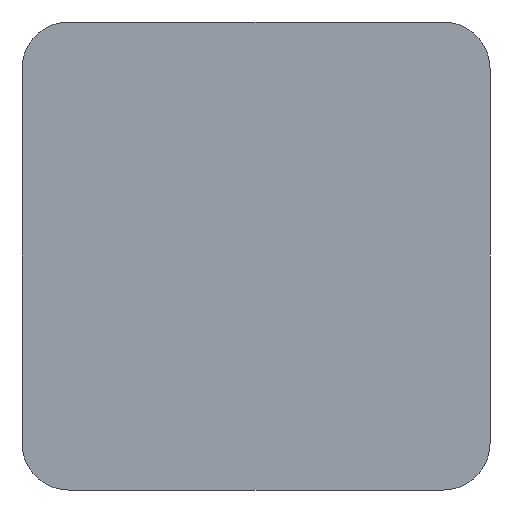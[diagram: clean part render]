
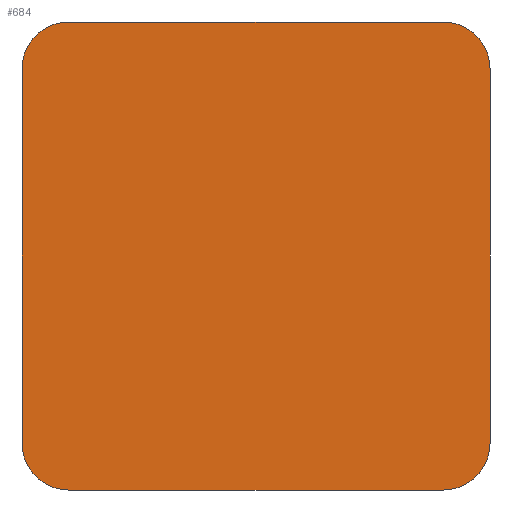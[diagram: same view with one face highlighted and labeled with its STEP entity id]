
A CAD part, front view. The second image highlights one B-rep face of the part: STEP entity #684.
In plain terms, the highlighted planar face has unit normal (0, -1, 0).
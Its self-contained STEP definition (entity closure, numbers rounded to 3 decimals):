
#63 = VERTEX_POINT('',#64);
#64 = CARTESIAN_POINT('',(-25.,13.2,20.));
#73 = PLANE('',#74);
#74 = AXIS2_PLACEMENT_3D('',#75,#76,#77);
#75 = CARTESIAN_POINT('',(-25.,13.2,20.));
#76 = DIRECTION('',(-1.,0.,-0.));
#77 = DIRECTION('',(0.,0.,-1.));
#85 = CYLINDRICAL_SURFACE('',#86,5.);
#86 = AXIS2_PLACEMENT_3D('',#87,#88,#89);
#87 = CARTESIAN_POINT('',(-20.,13.2,20.));
#88 = DIRECTION('',(0.,-1.,-0.));
#89 = DIRECTION('',(1.,0.,0.));
#126 = VERTEX_POINT('',#127);
#127 = CARTESIAN_POINT('',(-25.,13.2,-20.));
#141 = CYLINDRICAL_SURFACE('',#142,5.);
#142 = AXIS2_PLACEMENT_3D('',#143,#144,#145);
#143 = CARTESIAN_POINT('',(-20.,13.2,-20.));
#144 = DIRECTION('',(0.,-1.,-0.));
#145 = DIRECTION('',(1.,0.,0.));
#153 = EDGE_CURVE('',#63,#126,#154,.T.);
#154 = SURFACE_CURVE('',#155,(#159,#166),.PCURVE_S1.);
#155 = LINE('',#156,#157);
#156 = CARTESIAN_POINT('',(-25.,13.2,0.));
#157 = VECTOR('',#158,1.);
#158 = DIRECTION('',(0.,0.,-1.));
#159 = PCURVE('',#73,#160);
#160 = DEFINITIONAL_REPRESENTATION('',(#161),#165);
#161 = LINE('',#162,#163);
#162 = CARTESIAN_POINT('',(20.,0.));
#163 = VECTOR('',#164,1.);
#164 = DIRECTION('',(1.,0.));
#165 = ( GEOMETRIC_REPRESENTATION_CONTEXT(2) 
PARAMETRIC_REPRESENTATION_CONTEXT() REPRESENTATION_CONTEXT('2D SPACE',''
  ) );
#166 = PCURVE('',#167,#172);
#167 = PLANE('',#168);
#168 = AXIS2_PLACEMENT_3D('',#169,#170,#171);
#169 = CARTESIAN_POINT('',(0.,13.2,0.));
#170 = DIRECTION('',(0.,1.,0.));
#171 = DIRECTION('',(1.,0.,0.));
#172 = DEFINITIONAL_REPRESENTATION('',(#173),#177);
#173 = LINE('',#174,#175);
#174 = CARTESIAN_POINT('',(-25.,0.));
#175 = VECTOR('',#176,1.);
#176 = DIRECTION('',(0.,1.));
#177 = ( GEOMETRIC_REPRESENTATION_CONTEXT(2) 
PARAMETRIC_REPRESENTATION_CONTEXT() REPRESENTATION_CONTEXT('2D SPACE',''
  ) );
#182 = EDGE_CURVE('',#183,#126,#185,.T.);
#183 = VERTEX_POINT('',#184);
#184 = CARTESIAN_POINT('',(-20.,13.2,-25.));
#185 = SURFACE_CURVE('',#186,(#191,#198),.PCURVE_S1.);
#186 = CIRCLE('',#187,5.);
#187 = AXIS2_PLACEMENT_3D('',#188,#189,#190);
#188 = CARTESIAN_POINT('',(-20.,13.2,-20.));
#189 = DIRECTION('',(-0.,1.,0.));
#190 = DIRECTION('',(1.,0.,0.));
#191 = PCURVE('',#141,#192);
#192 = DEFINITIONAL_REPRESENTATION('',(#193),#197);
#193 = LINE('',#194,#195);
#194 = CARTESIAN_POINT('',(6.283,0.));
#195 = VECTOR('',#196,1.);
#196 = DIRECTION('',(-1.,0.));
#197 = ( GEOMETRIC_REPRESENTATION_CONTEXT(2) 
PARAMETRIC_REPRESENTATION_CONTEXT() REPRESENTATION_CONTEXT('2D SPACE',''
  ) );
#198 = PCURVE('',#167,#199);
#199 = DEFINITIONAL_REPRESENTATION('',(#200),#204);
#200 = CIRCLE('',#201,5.);
#201 = AXIS2_PLACEMENT_2D('',#202,#203);
#202 = CARTESIAN_POINT('',(-20.,20.));
#203 = DIRECTION('',(1.,0.));
#204 = ( GEOMETRIC_REPRESENTATION_CONTEXT(2) 
PARAMETRIC_REPRESENTATION_CONTEXT() REPRESENTATION_CONTEXT('2D SPACE',''
  ) );
#245 = PLANE('',#246);
#246 = AXIS2_PLACEMENT_3D('',#247,#248,#249);
#247 = CARTESIAN_POINT('',(-20.,13.2,-25.));
#248 = DIRECTION('',(0.,0.,-1.));
#249 = DIRECTION('',(1.,0.,0.));
#260 = EDGE_CURVE('',#63,#261,#263,.T.);
#261 = VERTEX_POINT('',#262);
#262 = CARTESIAN_POINT('',(-20.,13.2,25.));
#263 = SURFACE_CURVE('',#264,(#269,#276),.PCURVE_S1.);
#264 = CIRCLE('',#265,5.);
#265 = AXIS2_PLACEMENT_3D('',#266,#267,#268);
#266 = CARTESIAN_POINT('',(-20.,13.2,20.));
#267 = DIRECTION('',(-0.,1.,0.));
#268 = DIRECTION('',(1.,0.,0.));
#269 = PCURVE('',#85,#270);
#270 = DEFINITIONAL_REPRESENTATION('',(#271),#275);
#271 = LINE('',#272,#273);
#272 = CARTESIAN_POINT('',(6.283,0.));
#273 = VECTOR('',#274,1.);
#274 = DIRECTION('',(-1.,0.));
#275 = ( GEOMETRIC_REPRESENTATION_CONTEXT(2) 
PARAMETRIC_REPRESENTATION_CONTEXT() REPRESENTATION_CONTEXT('2D SPACE',''
  ) );
#276 = PCURVE('',#167,#277);
#277 = DEFINITIONAL_REPRESENTATION('',(#278),#282);
#278 = CIRCLE('',#279,5.);
#279 = AXIS2_PLACEMENT_2D('',#280,#281);
#280 = CARTESIAN_POINT('',(-20.,-20.));
#281 = DIRECTION('',(1.,0.));
#282 = ( GEOMETRIC_REPRESENTATION_CONTEXT(2) 
PARAMETRIC_REPRESENTATION_CONTEXT() REPRESENTATION_CONTEXT('2D SPACE',''
  ) );
#300 = PLANE('',#301);
#301 = AXIS2_PLACEMENT_3D('',#302,#303,#304);
#302 = CARTESIAN_POINT('',(-20.,13.2,25.));
#303 = DIRECTION('',(0.,0.,-1.));
#304 = DIRECTION('',(1.,0.,0.));
#363 = VERTEX_POINT('',#364);
#364 = CARTESIAN_POINT('',(20.,13.2,25.));
#378 = CYLINDRICAL_SURFACE('',#379,5.);
#379 = AXIS2_PLACEMENT_3D('',#380,#381,#382);
#380 = CARTESIAN_POINT('',(20.,13.2,20.));
#381 = DIRECTION('',(0.,-1.,-0.));
#382 = DIRECTION('',(1.,0.,0.));
#390 = EDGE_CURVE('',#261,#363,#391,.T.);
#391 = SURFACE_CURVE('',#392,(#396,#403),.PCURVE_S1.);
#392 = LINE('',#393,#394);
#393 = CARTESIAN_POINT('',(0.,13.2,25.));
#394 = VECTOR('',#395,1.);
#395 = DIRECTION('',(1.,0.,0.));
#396 = PCURVE('',#300,#397);
#397 = DEFINITIONAL_REPRESENTATION('',(#398),#402);
#398 = LINE('',#399,#400);
#399 = CARTESIAN_POINT('',(20.,0.));
#400 = VECTOR('',#401,1.);
#401 = DIRECTION('',(1.,0.));
#402 = ( GEOMETRIC_REPRESENTATION_CONTEXT(2) 
PARAMETRIC_REPRESENTATION_CONTEXT() REPRESENTATION_CONTEXT('2D SPACE',''
  ) );
#403 = PCURVE('',#167,#404);
#404 = DEFINITIONAL_REPRESENTATION('',(#405),#409);
#405 = LINE('',#406,#407);
#406 = CARTESIAN_POINT('',(0.,-25.));
#407 = VECTOR('',#408,1.);
#408 = DIRECTION('',(1.,0.));
#409 = ( GEOMETRIC_REPRESENTATION_CONTEXT(2) 
PARAMETRIC_REPRESENTATION_CONTEXT() REPRESENTATION_CONTEXT('2D SPACE',''
  ) );
#414 = EDGE_CURVE('',#363,#415,#417,.T.);
#415 = VERTEX_POINT('',#416);
#416 = CARTESIAN_POINT('',(25.,13.2,20.));
#417 = SURFACE_CURVE('',#418,(#423,#430),.PCURVE_S1.);
#418 = CIRCLE('',#419,5.);
#419 = AXIS2_PLACEMENT_3D('',#420,#421,#422);
#420 = CARTESIAN_POINT('',(20.,13.2,20.));
#421 = DIRECTION('',(-0.,1.,0.));
#422 = DIRECTION('',(1.,0.,0.));
#423 = PCURVE('',#378,#424);
#424 = DEFINITIONAL_REPRESENTATION('',(#425),#429);
#425 = LINE('',#426,#427);
#426 = CARTESIAN_POINT('',(6.283,0.));
#427 = VECTOR('',#428,1.);
#428 = DIRECTION('',(-1.,0.));
#429 = ( GEOMETRIC_REPRESENTATION_CONTEXT(2) 
PARAMETRIC_REPRESENTATION_CONTEXT() REPRESENTATION_CONTEXT('2D SPACE',''
  ) );
#430 = PCURVE('',#167,#431);
#431 = DEFINITIONAL_REPRESENTATION('',(#432),#436);
#432 = CIRCLE('',#433,5.);
#433 = AXIS2_PLACEMENT_2D('',#434,#435);
#434 = CARTESIAN_POINT('',(20.,-20.));
#435 = DIRECTION('',(1.,0.));
#436 = ( GEOMETRIC_REPRESENTATION_CONTEXT(2) 
PARAMETRIC_REPRESENTATION_CONTEXT() REPRESENTATION_CONTEXT('2D SPACE',''
  ) );
#454 = PLANE('',#455);
#455 = AXIS2_PLACEMENT_3D('',#456,#457,#458);
#456 = CARTESIAN_POINT('',(25.,13.2,20.));
#457 = DIRECTION('',(-1.,0.,-0.));
#458 = DIRECTION('',(0.,0.,-1.));
#517 = VERTEX_POINT('',#518);
#518 = CARTESIAN_POINT('',(25.,13.2,-20.));
#532 = CYLINDRICAL_SURFACE('',#533,5.);
#533 = AXIS2_PLACEMENT_3D('',#534,#535,#536);
#534 = CARTESIAN_POINT('',(20.,13.2,-20.));
#535 = DIRECTION('',(0.,-1.,-0.));
#536 = DIRECTION('',(1.,0.,0.));
#544 = EDGE_CURVE('',#415,#517,#545,.T.);
#545 = SURFACE_CURVE('',#546,(#550,#557),.PCURVE_S1.);
#546 = LINE('',#547,#548);
#547 = CARTESIAN_POINT('',(25.,13.2,0.));
#548 = VECTOR('',#549,1.);
#549 = DIRECTION('',(0.,0.,-1.));
#550 = PCURVE('',#454,#551);
#551 = DEFINITIONAL_REPRESENTATION('',(#552),#556);
#552 = LINE('',#553,#554);
#553 = CARTESIAN_POINT('',(20.,0.));
#554 = VECTOR('',#555,1.);
#555 = DIRECTION('',(1.,0.));
#556 = ( GEOMETRIC_REPRESENTATION_CONTEXT(2) 
PARAMETRIC_REPRESENTATION_CONTEXT() REPRESENTATION_CONTEXT('2D SPACE',''
  ) );
#557 = PCURVE('',#167,#558);
#558 = DEFINITIONAL_REPRESENTATION('',(#559),#563);
#559 = LINE('',#560,#561);
#560 = CARTESIAN_POINT('',(25.,0.));
#561 = VECTOR('',#562,1.);
#562 = DIRECTION('',(0.,1.));
#563 = ( GEOMETRIC_REPRESENTATION_CONTEXT(2) 
PARAMETRIC_REPRESENTATION_CONTEXT() REPRESENTATION_CONTEXT('2D SPACE',''
  ) );
#568 = EDGE_CURVE('',#517,#569,#571,.T.);
#569 = VERTEX_POINT('',#570);
#570 = CARTESIAN_POINT('',(20.,13.2,-25.));
#571 = SURFACE_CURVE('',#572,(#577,#584),.PCURVE_S1.);
#572 = CIRCLE('',#573,5.);
#573 = AXIS2_PLACEMENT_3D('',#574,#575,#576);
#574 = CARTESIAN_POINT('',(20.,13.2,-20.));
#575 = DIRECTION('',(-0.,1.,0.));
#576 = DIRECTION('',(1.,0.,0.));
#577 = PCURVE('',#532,#578);
#578 = DEFINITIONAL_REPRESENTATION('',(#579),#583);
#579 = LINE('',#580,#581);
#580 = CARTESIAN_POINT('',(6.283,0.));
#581 = VECTOR('',#582,1.);
#582 = DIRECTION('',(-1.,0.));
#583 = ( GEOMETRIC_REPRESENTATION_CONTEXT(2) 
PARAMETRIC_REPRESENTATION_CONTEXT() REPRESENTATION_CONTEXT('2D SPACE',''
  ) );
#584 = PCURVE('',#167,#585);
#585 = DEFINITIONAL_REPRESENTATION('',(#586),#590);
#586 = CIRCLE('',#587,5.);
#587 = AXIS2_PLACEMENT_2D('',#588,#589);
#588 = CARTESIAN_POINT('',(20.,20.));
#589 = DIRECTION('',(1.,0.));
#590 = ( GEOMETRIC_REPRESENTATION_CONTEXT(2) 
PARAMETRIC_REPRESENTATION_CONTEXT() REPRESENTATION_CONTEXT('2D SPACE',''
  ) );
#664 = EDGE_CURVE('',#183,#569,#665,.T.);
#665 = SURFACE_CURVE('',#666,(#670,#677),.PCURVE_S1.);
#666 = LINE('',#667,#668);
#667 = CARTESIAN_POINT('',(0.,13.2,-25.));
#668 = VECTOR('',#669,1.);
#669 = DIRECTION('',(1.,0.,0.));
#670 = PCURVE('',#245,#671);
#671 = DEFINITIONAL_REPRESENTATION('',(#672),#676);
#672 = LINE('',#673,#674);
#673 = CARTESIAN_POINT('',(20.,0.));
#674 = VECTOR('',#675,1.);
#675 = DIRECTION('',(1.,0.));
#676 = ( GEOMETRIC_REPRESENTATION_CONTEXT(2) 
PARAMETRIC_REPRESENTATION_CONTEXT() REPRESENTATION_CONTEXT('2D SPACE',''
  ) );
#677 = PCURVE('',#167,#678);
#678 = DEFINITIONAL_REPRESENTATION('',(#679),#683);
#679 = LINE('',#680,#681);
#680 = CARTESIAN_POINT('',(0.,25.));
#681 = VECTOR('',#682,1.);
#682 = DIRECTION('',(1.,0.));
#683 = ( GEOMETRIC_REPRESENTATION_CONTEXT(2) 
PARAMETRIC_REPRESENTATION_CONTEXT() REPRESENTATION_CONTEXT('2D SPACE',''
  ) );
#684 = ADVANCED_FACE('',(#685),#167,.F.);
#685 = FACE_BOUND('',#686,.F.);
#686 = EDGE_LOOP('',(#687,#688,#689,#690,#691,#692,#693,#694));
#687 = ORIENTED_EDGE('',*,*,#153,.F.);
#688 = ORIENTED_EDGE('',*,*,#260,.T.);
#689 = ORIENTED_EDGE('',*,*,#390,.T.);
#690 = ORIENTED_EDGE('',*,*,#414,.T.);
#691 = ORIENTED_EDGE('',*,*,#544,.T.);
#692 = ORIENTED_EDGE('',*,*,#568,.T.);
#693 = ORIENTED_EDGE('',*,*,#664,.F.);
#694 = ORIENTED_EDGE('',*,*,#182,.T.);
